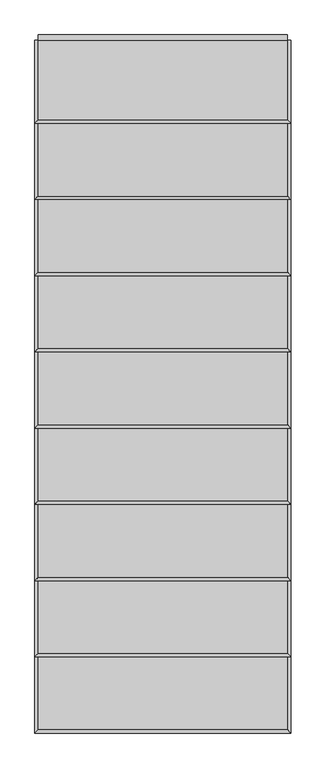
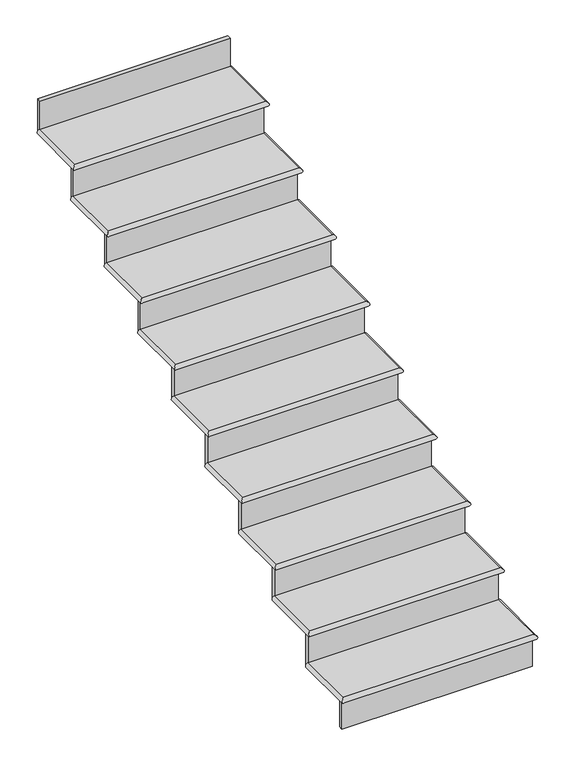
"""IFC4 building model written with IfcOpenShell, lengths in millimetres: stair flight geometry."""

from ifc_helpers import new_model, si_unit, frame, origin, place, context, project, spatial, circle_curve, ellipse_curve, faceted_brep, source, transform, mapped, element, save
from ifc_brep_helpers import plane_surface, cylinder_surface, advanced_brep


def stair_flight_46231d1e(model_context):
    return source(origin(), model_context, "Body", "SolidModel", [
        advanced_brep(
        [(7817.7853665, -3484.2167382, 143.9333333), (7817.7853665, -3484.2167382, 169.3333333), (6903.3853665, -3484.2167382, 169.3333333), (6903.3853665, -3484.2167382, 143.9333333), (7817.7853665, -3192.1167382, 169.3333333), (6903.3853665, -3192.1167382, 169.3333333), (6903.3853665, -3192.1167382, 143.9333333), (7817.7853665, -3192.1167382, 143.9333333)],
        [
            (0, 1, ellipse_curve(frame((7817.7853665, -3484.2167382, 156.6333333), z_axis=(-0.7071067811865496, -0.7071067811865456, 0.0), x_axis=(0.7071067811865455, -0.7071067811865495, 0.0)), 17.9605122, 12.7)),
            (1, 2),
            (2, 3, ellipse_curve(frame((6903.3853665, -3484.2167382, 156.6333333), z_axis=(0.7071067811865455, -0.7071067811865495, 0.0), x_axis=(0.7071067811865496, 0.7071067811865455, 0.0)), 17.9605122, 12.7)),
            (3, 0),
            (4, 5),
            (5, 2),
            (1, 4),
            (6, 7),
            (7, 0),
            (3, 6),
            (4, 7, circle_curve(frame((7817.7853665, -3192.1167382, 156.6333333), z_axis=(0.0, 1.0, 0.0), x_axis=(-1.0, 0.0, 0.0)), 12.7)),
            (6, 5, circle_curve(frame((6903.3853665, -3192.1167382, 156.6333333), z_axis=(0.0, 1.0, 0.0), x_axis=(1.0, 0.0, 0.0)), 12.7)),
        ],
        [
            cylinder_surface(frame((7817.7853665, -3484.2167382, 156.6333333), z_axis=(1.0, 0.0, 0.0), x_axis=(0.0, 1.0, 0.0)), 12.7),
            plane_surface(frame((6903.3853665, -3217.5167382, 169.3333333), z_axis=(0.0, 0.0, 1.0), x_axis=(0.0, -1.0, 0.0))),
            plane_surface(frame((6903.3853665, -3217.5167382, 143.9333333), z_axis=(0.0, 0.0, -1.0), x_axis=(0.0, 1.0, 0.0))),
            plane_surface(frame((7817.7853665, -3192.1167382, 169.3333333), z_axis=(0.0, 1.0, 0.0), x_axis=(0.0, 0.0, -1.0))),
            cylinder_surface(frame((7817.7853665, -3192.1167382, 156.6333333), z_axis=(0.0, 1.0, 0.0), x_axis=(-1.0, 0.0, 0.0)), 12.7),
            cylinder_surface(frame((6903.3853665, -3484.2167382, 156.6333333), z_axis=(0.0, -1.0, 0.0), x_axis=(1.0, 0.0, 0.0)), 12.7),
        ],
        [
            (0, [[1, 2, 3, 4]]),
            (1, [[5, 6, -2, 7]]),
            (2, [[8, 9, -4, 10]]),
            (3, [[-5, 11, -8, 12]]),
            (4, [[-11, -7, -1, -9]]),
            (5, [[-3, -6, -12, -10]]),
        ],
    ),
        faceted_brep([(7817.7853665, -3471.5167382, 143.9333333), (7817.7853665, -3471.5167382, 0.0), (7817.7853665, -3452.4667382, 0.0), (7817.7853665, -3452.4667382, 143.9333333), (6903.3853665, -3471.5167382, 143.9333333), (6903.3853665, -3452.4667382, 143.9333333), (6903.3853665, -3452.4667382, 0.0), (6903.3853665, -3471.5167382, 0.0)], [[[0, 1, 2, 3]], [[4, 5, 6, 7]], [[1, 0, 4, 7]], [[2, 1, 7, 6]], [[3, 2, 6, 5]], [[0, 3, 5, 4]]]),
        faceted_brep([(7817.7853665, -3192.1167382, 313.2666667), (7817.7853665, -3192.1167382, 143.9333333), (7817.7853665, -3173.0667382, 143.9333333), (7817.7853665, -3173.0667382, 313.2666667), (6903.3853665, -3192.1167382, 313.2666667), (6903.3853665, -3173.0667382, 313.2666667), (6903.3853665, -3173.0667382, 143.9333333), (6903.3853665, -3192.1167382, 143.9333333)], [[[0, 1, 2, 3]], [[4, 5, 6, 7]], [[1, 0, 4, 7]], [[2, 1, 7, 6]], [[3, 2, 6, 5]], [[0, 3, 5, 4]]]),
        advanced_brep(
        [(7817.7853665, -2912.7167382, 338.6666667), (6903.3853665, -2912.7167382, 338.6666667), (6903.3853665, -3204.8167382, 338.6666667), (7817.7853665, -3204.8167382, 338.6666667), (6903.3853665, -2912.7167382, 313.2666667), (7817.7853665, -2912.7167382, 313.2666667), (7817.7853665, -3204.8167382, 313.2666667), (6903.3853665, -3204.8167382, 313.2666667)],
        [
            (0, 1),
            (1, 2),
            (2, 3),
            (3, 0),
            (4, 5),
            (5, 6),
            (6, 7),
            (7, 4),
            (0, 5, circle_curve(frame((7817.7853665, -2912.7167382, 325.9666667), z_axis=(0.0, 1.0, 0.0), x_axis=(-1.0, 0.0, 0.0)), 12.7)),
            (4, 1, circle_curve(frame((6903.3853665, -2912.7167382, 325.9666667), z_axis=(0.0, 1.0, 0.0), x_axis=(1.0, 0.0, 0.0)), 12.7)),
            (6, 3, ellipse_curve(frame((7817.7853665, -3204.8167382, 325.9666667), z_axis=(-0.7071067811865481, -0.7071067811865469, 0.0), x_axis=(0.7071067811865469, -0.7071067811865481, 0.0)), 17.9605122, 12.7)),
            (2, 7, ellipse_curve(frame((6903.3853665, -3204.8167382, 325.9666667), z_axis=(0.7071067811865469, -0.7071067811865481, 0.0), x_axis=(0.7071067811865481, 0.7071067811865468, 0.0)), 17.9605122, 12.7)),
        ],
        [
            plane_surface(frame((6903.3853665, -3217.5167382, 338.6666667), z_axis=(0.0, 0.0, 1.0), x_axis=(0.0, -1.0, 0.0))),
            plane_surface(frame((6903.3853665, -3217.5167382, 313.2666667), z_axis=(0.0, 0.0, -1.0), x_axis=(0.0, 1.0, 0.0))),
            plane_surface(frame((7817.7853665, -2912.7167382, 338.6666667), z_axis=(0.0, 1.0, 0.0), x_axis=(0.0, 0.0, -1.0))),
            cylinder_surface(frame((7817.7853665, -3204.8167382, 325.9666667), z_axis=(1.0, 0.0, 0.0), x_axis=(0.0, 1.0, 0.0)), 12.7),
            cylinder_surface(frame((7817.7853665, -2912.7167382, 325.9666667), z_axis=(0.0, 1.0, 0.0), x_axis=(-1.0, 0.0, 0.0)), 12.7),
            cylinder_surface(frame((6903.3853665, -3204.8167382, 325.9666667), z_axis=(0.0, -1.0, 0.0), x_axis=(1.0, 0.0, 0.0)), 12.7),
        ],
        [
            (0, [[1, 2, 3, 4]]),
            (1, [[5, 6, 7, 8]]),
            (2, [[-1, 9, -5, 10]]),
            (3, [[11, -3, 12, -7]]),
            (4, [[-9, -4, -11, -6]]),
            (5, [[-12, -2, -10, -8]]),
        ],
    ),
        faceted_brep([(7817.7853665, -2912.7167382, 482.6), (7817.7853665, -2912.7167382, 313.2666667), (7817.7853665, -2893.6667382, 313.2666667), (7817.7853665, -2893.6667382, 482.6), (6903.3853665, -2912.7167382, 482.6), (6903.3853665, -2893.6667382, 482.6), (6903.3853665, -2893.6667382, 313.2666667), (6903.3853665, -2912.7167382, 313.2666667)], [[[0, 1, 2, 3]], [[4, 5, 6, 7]], [[1, 0, 4, 7]], [[2, 1, 7, 6]], [[3, 2, 6, 5]], [[0, 3, 5, 4]]]),
        advanced_brep(
        [(7817.7853665, -2633.3167382, 508.0), (6903.3853665, -2633.3167382, 508.0), (6903.3853665, -2925.4167382, 508.0), (7817.7853665, -2925.4167382, 508.0), (6903.3853665, -2633.3167382, 482.6), (7817.7853665, -2633.3167382, 482.6), (7817.7853665, -2925.4167382, 482.6), (6903.3853665, -2925.4167382, 482.6)],
        [
            (0, 1),
            (1, 2),
            (2, 3),
            (3, 0),
            (4, 5),
            (5, 6),
            (6, 7),
            (7, 4),
            (0, 5, circle_curve(frame((7817.7853665, -2633.3167382, 495.3), z_axis=(0.0, 1.0, 0.0), x_axis=(-1.0, 0.0, 0.0)), 12.7)),
            (4, 1, circle_curve(frame((6903.3853665, -2633.3167382, 495.3), z_axis=(0.0, 1.0, 0.0), x_axis=(1.0, 0.0, 0.0)), 12.7)),
            (6, 3, ellipse_curve(frame((7817.7853665, -2925.4167382, 495.3), z_axis=(-0.7071067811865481, -0.7071067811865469, 0.0), x_axis=(0.7071067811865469, -0.7071067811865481, 0.0)), 17.9605122, 12.7)),
            (2, 7, ellipse_curve(frame((6903.3853665, -2925.4167382, 495.3), z_axis=(0.7071067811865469, -0.7071067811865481, 0.0), x_axis=(0.7071067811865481, 0.7071067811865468, 0.0)), 17.9605122, 12.7)),
        ],
        [
            plane_surface(frame((6903.3853665, -2938.1167382, 508.0), z_axis=(0.0, 0.0, 1.0), x_axis=(0.0, -1.0, 0.0))),
            plane_surface(frame((6903.3853665, -2938.1167382, 482.6), z_axis=(0.0, 0.0, -1.0), x_axis=(0.0, 1.0, 0.0))),
            plane_surface(frame((7817.7853665, -2633.3167382, 508.0), z_axis=(0.0, 1.0, 0.0), x_axis=(0.0, 0.0, -1.0))),
            cylinder_surface(frame((7817.7853665, -2925.4167382, 495.3), z_axis=(1.0, 0.0, 0.0), x_axis=(0.0, 1.0, 0.0)), 12.7),
            cylinder_surface(frame((7817.7853665, -2633.3167382, 495.3), z_axis=(0.0, 1.0, 0.0), x_axis=(-1.0, 0.0, 0.0)), 12.7),
            cylinder_surface(frame((6903.3853665, -2925.4167382, 495.3), z_axis=(0.0, -1.0, 0.0), x_axis=(1.0, 0.0, 0.0)), 12.7),
        ],
        [
            (0, [[1, 2, 3, 4]]),
            (1, [[5, 6, 7, 8]]),
            (2, [[-1, 9, -5, 10]]),
            (3, [[11, -3, 12, -7]]),
            (4, [[-9, -4, -11, -6]]),
            (5, [[-12, -2, -10, -8]]),
        ],
    ),
        faceted_brep([(7817.7853665, -2633.3167382, 651.9333333), (7817.7853665, -2633.3167382, 482.6), (7817.7853665, -2614.2667382, 482.6), (7817.7853665, -2614.2667382, 651.9333333), (6903.3853665, -2633.3167382, 651.9333333), (6903.3853665, -2614.2667382, 651.9333333), (6903.3853665, -2614.2667382, 482.6), (6903.3853665, -2633.3167382, 482.6)], [[[0, 1, 2, 3]], [[4, 5, 6, 7]], [[1, 0, 4, 7]], [[2, 1, 7, 6]], [[3, 2, 6, 5]], [[0, 3, 5, 4]]]),
        advanced_brep(
        [(7817.7853665, -2353.9167382, 677.3333333), (6903.3853665, -2353.9167382, 677.3333333), (6903.3853665, -2646.0167382, 677.3333333), (7817.7853665, -2646.0167382, 677.3333333), (6903.3853665, -2353.9167382, 651.9333333), (7817.7853665, -2353.9167382, 651.9333333), (7817.7853665, -2646.0167382, 651.9333333), (6903.3853665, -2646.0167382, 651.9333333)],
        [
            (0, 1),
            (1, 2),
            (2, 3),
            (3, 0),
            (4, 5),
            (5, 6),
            (6, 7),
            (7, 4),
            (0, 5, circle_curve(frame((7817.7853665, -2353.9167382, 664.6333333), z_axis=(0.0, 1.0, 0.0), x_axis=(-1.0, 0.0, 0.0)), 12.7)),
            (4, 1, circle_curve(frame((6903.3853665, -2353.9167382, 664.6333333), z_axis=(0.0, 1.0, 0.0), x_axis=(1.0, 0.0, 0.0)), 12.7)),
            (6, 3, ellipse_curve(frame((7817.7853665, -2646.0167382, 664.6333333), z_axis=(-0.7071067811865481, -0.7071067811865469, 0.0), x_axis=(0.7071067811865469, -0.7071067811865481, 0.0)), 17.9605122, 12.7)),
            (2, 7, ellipse_curve(frame((6903.3853665, -2646.0167382, 664.6333333), z_axis=(0.7071067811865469, -0.7071067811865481, 0.0), x_axis=(0.7071067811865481, 0.7071067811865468, 0.0)), 17.9605122, 12.7)),
        ],
        [
            plane_surface(frame((6903.3853665, -2658.7167382, 677.3333333), z_axis=(0.0, 0.0, 1.0), x_axis=(0.0, -1.0, 0.0))),
            plane_surface(frame((6903.3853665, -2658.7167382, 651.9333333), z_axis=(0.0, 0.0, -1.0), x_axis=(0.0, 1.0, 0.0))),
            plane_surface(frame((7817.7853665, -2353.9167382, 677.3333333), z_axis=(0.0, 1.0, 0.0), x_axis=(0.0, 0.0, -1.0))),
            cylinder_surface(frame((7817.7853665, -2646.0167382, 664.6333333), z_axis=(1.0, 0.0, 0.0), x_axis=(0.0, 1.0, 0.0)), 12.7),
            cylinder_surface(frame((7817.7853665, -2353.9167382, 664.6333333), z_axis=(0.0, 1.0, 0.0), x_axis=(-1.0, 0.0, 0.0)), 12.7),
            cylinder_surface(frame((6903.3853665, -2646.0167382, 664.6333333), z_axis=(0.0, -1.0, 0.0), x_axis=(1.0, 0.0, 0.0)), 12.7),
        ],
        [
            (0, [[1, 2, 3, 4]]),
            (1, [[5, 6, 7, 8]]),
            (2, [[-1, 9, -5, 10]]),
            (3, [[11, -3, 12, -7]]),
            (4, [[-9, -4, -11, -6]]),
            (5, [[-12, -2, -10, -8]]),
        ],
    ),
        faceted_brep([(7817.7853665, -2353.9167382, 821.2666667), (7817.7853665, -2353.9167382, 651.9333333), (7817.7853665, -2334.8667382, 651.9333333), (7817.7853665, -2334.8667382, 821.2666667), (6903.3853665, -2353.9167382, 821.2666667), (6903.3853665, -2334.8667382, 821.2666667), (6903.3853665, -2334.8667382, 651.9333333), (6903.3853665, -2353.9167382, 651.9333333)], [[[0, 1, 2, 3]], [[4, 5, 6, 7]], [[1, 0, 4, 7]], [[2, 1, 7, 6]], [[3, 2, 6, 5]], [[0, 3, 5, 4]]]),
        advanced_brep(
        [(7817.7853665, -2074.5167382, 846.6666667), (6903.3853665, -2074.5167382, 846.6666667), (6903.3853665, -2366.6167382, 846.6666667), (7817.7853665, -2366.6167382, 846.6666667), (6903.3853665, -2074.5167382, 821.2666667), (7817.7853665, -2074.5167382, 821.2666667), (7817.7853665, -2366.6167382, 821.2666667), (6903.3853665, -2366.6167382, 821.2666667)],
        [
            (0, 1),
            (1, 2),
            (2, 3),
            (3, 0),
            (4, 5),
            (5, 6),
            (6, 7),
            (7, 4),
            (0, 5, circle_curve(frame((7817.7853665, -2074.5167382, 833.9666667), z_axis=(0.0, 1.0, 0.0), x_axis=(-1.0, 0.0, 0.0)), 12.7)),
            (4, 1, circle_curve(frame((6903.3853665, -2074.5167382, 833.9666667), z_axis=(0.0, 1.0, 0.0), x_axis=(1.0, 0.0, 0.0)), 12.7)),
            (6, 3, ellipse_curve(frame((7817.7853665, -2366.6167382, 833.9666667), z_axis=(-0.7071067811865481, -0.7071067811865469, 0.0), x_axis=(0.7071067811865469, -0.7071067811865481, 0.0)), 17.9605122, 12.7)),
            (2, 7, ellipse_curve(frame((6903.3853665, -2366.6167382, 833.9666667), z_axis=(0.7071067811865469, -0.7071067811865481, 0.0), x_axis=(0.7071067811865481, 0.7071067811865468, 0.0)), 17.9605122, 12.7)),
        ],
        [
            plane_surface(frame((6903.3853665, -2379.3167382, 846.6666667), z_axis=(0.0, 0.0, 1.0), x_axis=(0.0, -1.0, 0.0))),
            plane_surface(frame((6903.3853665, -2379.3167382, 821.2666667), z_axis=(0.0, 0.0, -1.0), x_axis=(0.0, 1.0, 0.0))),
            plane_surface(frame((7817.7853665, -2074.5167382, 846.6666667), z_axis=(0.0, 1.0, 0.0), x_axis=(0.0, 0.0, -1.0))),
            cylinder_surface(frame((7817.7853665, -2366.6167382, 833.9666667), z_axis=(1.0, 0.0, 0.0), x_axis=(0.0, 1.0, 0.0)), 12.7),
            cylinder_surface(frame((7817.7853665, -2074.5167382, 833.9666667), z_axis=(0.0, 1.0, 0.0), x_axis=(-1.0, 0.0, 0.0)), 12.7),
            cylinder_surface(frame((6903.3853665, -2366.6167382, 833.9666667), z_axis=(0.0, -1.0, 0.0), x_axis=(1.0, 0.0, 0.0)), 12.7),
        ],
        [
            (0, [[1, 2, 3, 4]]),
            (1, [[5, 6, 7, 8]]),
            (2, [[-1, 9, -5, 10]]),
            (3, [[11, -3, 12, -7]]),
            (4, [[-9, -4, -11, -6]]),
            (5, [[-12, -2, -10, -8]]),
        ],
    ),
        faceted_brep([(7817.7853665, -2074.5167382, 990.6), (7817.7853665, -2074.5167382, 821.2666667), (7817.7853665, -2055.4667382, 821.2666667), (7817.7853665, -2055.4667382, 990.6), (6903.3853665, -2074.5167382, 990.6), (6903.3853665, -2055.4667382, 990.6), (6903.3853665, -2055.4667382, 821.2666667), (6903.3853665, -2074.5167382, 821.2666667)], [[[0, 1, 2, 3]], [[4, 5, 6, 7]], [[1, 0, 4, 7]], [[2, 1, 7, 6]], [[3, 2, 6, 5]], [[0, 3, 5, 4]]]),
        advanced_brep(
        [(7817.7853665, -1795.1167382, 1016.0), (6903.3853665, -1795.1167382, 1016.0), (6903.3853665, -2087.2167382, 1016.0), (7817.7853665, -2087.2167382, 1016.0), (6903.3853665, -1795.1167382, 990.6), (7817.7853665, -1795.1167382, 990.6), (7817.7853665, -2087.2167382, 990.6), (6903.3853665, -2087.2167382, 990.6)],
        [
            (0, 1),
            (1, 2),
            (2, 3),
            (3, 0),
            (4, 5),
            (5, 6),
            (6, 7),
            (7, 4),
            (0, 5, circle_curve(frame((7817.7853665, -1795.1167382, 1003.3), z_axis=(0.0, 1.0, 0.0), x_axis=(-1.0, 0.0, 0.0)), 12.7)),
            (4, 1, circle_curve(frame((6903.3853665, -1795.1167382, 1003.3), z_axis=(0.0, 1.0, 0.0), x_axis=(1.0, 0.0, 0.0)), 12.7)),
            (6, 3, ellipse_curve(frame((7817.7853665, -2087.2167382, 1003.3), z_axis=(-0.7071067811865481, -0.7071067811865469, 0.0), x_axis=(0.7071067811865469, -0.7071067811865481, 0.0)), 17.9605122, 12.7)),
            (2, 7, ellipse_curve(frame((6903.3853665, -2087.2167382, 1003.3), z_axis=(0.7071067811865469, -0.7071067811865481, 0.0), x_axis=(0.7071067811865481, 0.7071067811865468, 0.0)), 17.9605122, 12.7)),
        ],
        [
            plane_surface(frame((6903.3853665, -2099.9167382, 1016.0), z_axis=(0.0, 0.0, 1.0), x_axis=(0.0, -1.0, 0.0))),
            plane_surface(frame((6903.3853665, -2099.9167382, 990.6), z_axis=(0.0, 0.0, -1.0), x_axis=(0.0, 1.0, 0.0))),
            plane_surface(frame((7817.7853665, -1795.1167382, 1016.0), z_axis=(0.0, 1.0, 0.0), x_axis=(0.0, 0.0, -1.0))),
            cylinder_surface(frame((7817.7853665, -2087.2167382, 1003.3), z_axis=(1.0, 0.0, 0.0), x_axis=(0.0, 1.0, 0.0)), 12.7),
            cylinder_surface(frame((7817.7853665, -1795.1167382, 1003.3), z_axis=(0.0, 1.0, 0.0), x_axis=(-1.0, 0.0, 0.0)), 12.7),
            cylinder_surface(frame((6903.3853665, -2087.2167382, 1003.3), z_axis=(0.0, -1.0, 0.0), x_axis=(1.0, 0.0, 0.0)), 12.7),
        ],
        [
            (0, [[1, 2, 3, 4]]),
            (1, [[5, 6, 7, 8]]),
            (2, [[-1, 9, -5, 10]]),
            (3, [[11, -3, 12, -7]]),
            (4, [[-9, -4, -11, -6]]),
            (5, [[-12, -2, -10, -8]]),
        ],
    ),
        faceted_brep([(7817.7853665, -1795.1167382, 1159.9333333), (7817.7853665, -1795.1167382, 990.6), (7817.7853665, -1776.0667382, 990.6), (7817.7853665, -1776.0667382, 1159.9333333), (6903.3853665, -1795.1167382, 1159.9333333), (6903.3853665, -1776.0667382, 1159.9333333), (6903.3853665, -1776.0667382, 990.6), (6903.3853665, -1795.1167382, 990.6)], [[[0, 1, 2, 3]], [[4, 5, 6, 7]], [[1, 0, 4, 7]], [[2, 1, 7, 6]], [[3, 2, 6, 5]], [[0, 3, 5, 4]]]),
        advanced_brep(
        [(7817.7853665, -1515.7167382, 1185.3333333), (6903.3853665, -1515.7167382, 1185.3333333), (6903.3853665, -1807.8167382, 1185.3333333), (7817.7853665, -1807.8167382, 1185.3333333), (6903.3853665, -1515.7167382, 1159.9333333), (7817.7853665, -1515.7167382, 1159.9333333), (7817.7853665, -1807.8167382, 1159.9333333), (6903.3853665, -1807.8167382, 1159.9333333)],
        [
            (0, 1),
            (1, 2),
            (2, 3),
            (3, 0),
            (4, 5),
            (5, 6),
            (6, 7),
            (7, 4),
            (0, 5, circle_curve(frame((7817.7853665, -1515.7167382, 1172.6333333), z_axis=(0.0, 1.0, 0.0), x_axis=(-1.0, 0.0, 0.0)), 12.7)),
            (4, 1, circle_curve(frame((6903.3853665, -1515.7167382, 1172.6333333), z_axis=(0.0, 1.0, 0.0), x_axis=(1.0, 0.0, 0.0)), 12.7)),
            (6, 3, ellipse_curve(frame((7817.7853665, -1807.8167382, 1172.6333333), z_axis=(-0.7071067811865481, -0.7071067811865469, 0.0), x_axis=(0.7071067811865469, -0.7071067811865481, 0.0)), 17.9605122, 12.7)),
            (2, 7, ellipse_curve(frame((6903.3853665, -1807.8167382, 1172.6333333), z_axis=(0.7071067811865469, -0.7071067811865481, 0.0), x_axis=(0.7071067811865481, 0.7071067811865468, 0.0)), 17.9605122, 12.7)),
        ],
        [
            plane_surface(frame((6903.3853665, -1820.5167382, 1185.3333333), z_axis=(0.0, 0.0, 1.0), x_axis=(0.0, -1.0, 0.0))),
            plane_surface(frame((6903.3853665, -1820.5167382, 1159.9333333), z_axis=(0.0, 0.0, -1.0), x_axis=(0.0, 1.0, 0.0))),
            plane_surface(frame((7817.7853665, -1515.7167382, 1185.3333333), z_axis=(0.0, 1.0, 0.0), x_axis=(0.0, 0.0, -1.0))),
            cylinder_surface(frame((7817.7853665, -1807.8167382, 1172.6333333), z_axis=(1.0, 0.0, 0.0), x_axis=(0.0, 1.0, 0.0)), 12.7),
            cylinder_surface(frame((7817.7853665, -1515.7167382, 1172.6333333), z_axis=(0.0, 1.0, 0.0), x_axis=(-1.0, 0.0, 0.0)), 12.7),
            cylinder_surface(frame((6903.3853665, -1807.8167382, 1172.6333333), z_axis=(0.0, -1.0, 0.0), x_axis=(1.0, 0.0, 0.0)), 12.7),
        ],
        [
            (0, [[1, 2, 3, 4]]),
            (1, [[5, 6, 7, 8]]),
            (2, [[-1, 9, -5, 10]]),
            (3, [[11, -3, 12, -7]]),
            (4, [[-9, -4, -11, -6]]),
            (5, [[-12, -2, -10, -8]]),
        ],
    ),
        faceted_brep([(7817.7853665, -1515.7167382, 1329.2666667), (7817.7853665, -1515.7167382, 1159.9333333), (7817.7853665, -1496.6667382, 1159.9333333), (7817.7853665, -1496.6667382, 1329.2666667), (6903.3853665, -1515.7167382, 1329.2666667), (6903.3853665, -1496.6667382, 1329.2666667), (6903.3853665, -1496.6667382, 1159.9333333), (6903.3853665, -1515.7167382, 1159.9333333)], [[[0, 1, 2, 3]], [[4, 5, 6, 7]], [[1, 0, 4, 7]], [[2, 1, 7, 6]], [[3, 2, 6, 5]], [[0, 3, 5, 4]]]),
        advanced_brep(
        [(7817.7853665, -1236.3167382, 1354.6666667), (6903.3853665, -1236.3167382, 1354.6666667), (6903.3853665, -1528.4167382, 1354.6666667), (7817.7853665, -1528.4167382, 1354.6666667), (6903.3853665, -1236.3167382, 1329.2666667), (7817.7853665, -1236.3167382, 1329.2666667), (7817.7853665, -1528.4167382, 1329.2666667), (6903.3853665, -1528.4167382, 1329.2666667)],
        [
            (0, 1),
            (1, 2),
            (2, 3),
            (3, 0),
            (4, 5),
            (5, 6),
            (6, 7),
            (7, 4),
            (0, 5, circle_curve(frame((7817.7853665, -1236.3167382, 1341.9666667), z_axis=(0.0, 1.0, 0.0), x_axis=(-1.0, 0.0, 0.0)), 12.7)),
            (4, 1, circle_curve(frame((6903.3853665, -1236.3167382, 1341.9666667), z_axis=(0.0, 1.0, 0.0), x_axis=(1.0, 0.0, 0.0)), 12.7)),
            (6, 3, ellipse_curve(frame((7817.7853665, -1528.4167382, 1341.9666667), z_axis=(-0.7071067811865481, -0.7071067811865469, 0.0), x_axis=(0.7071067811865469, -0.7071067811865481, 0.0)), 17.9605122, 12.7)),
            (2, 7, ellipse_curve(frame((6903.3853665, -1528.4167382, 1341.9666667), z_axis=(0.7071067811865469, -0.7071067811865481, 0.0), x_axis=(0.7071067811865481, 0.7071067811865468, 0.0)), 17.9605122, 12.7)),
        ],
        [
            plane_surface(frame((6903.3853665, -1541.1167382, 1354.6666667), z_axis=(0.0, 0.0, 1.0), x_axis=(0.0, -1.0, 0.0))),
            plane_surface(frame((6903.3853665, -1541.1167382, 1329.2666667), z_axis=(0.0, 0.0, -1.0), x_axis=(0.0, 1.0, 0.0))),
            plane_surface(frame((7817.7853665, -1236.3167382, 1354.6666667), z_axis=(0.0, 1.0, 0.0), x_axis=(0.0, 0.0, -1.0))),
            cylinder_surface(frame((7817.7853665, -1528.4167382, 1341.9666667), z_axis=(1.0, 0.0, 0.0), x_axis=(0.0, 1.0, 0.0)), 12.7),
            cylinder_surface(frame((7817.7853665, -1236.3167382, 1341.9666667), z_axis=(0.0, 1.0, 0.0), x_axis=(-1.0, 0.0, 0.0)), 12.7),
            cylinder_surface(frame((6903.3853665, -1528.4167382, 1341.9666667), z_axis=(0.0, -1.0, 0.0), x_axis=(1.0, 0.0, 0.0)), 12.7),
        ],
        [
            (0, [[1, 2, 3, 4]]),
            (1, [[5, 6, 7, 8]]),
            (2, [[-1, 9, -5, 10]]),
            (3, [[11, -3, 12, -7]]),
            (4, [[-9, -4, -11, -6]]),
            (5, [[-12, -2, -10, -8]]),
        ],
    ),
        faceted_brep([(7817.7853665, -956.9167382, 1667.9333333), (7817.7853665, -956.9167382, 1498.6), (7817.7853665, -937.8667382, 1498.6), (7817.7853665, -937.8667382, 1667.9333333), (6903.3853665, -956.9167382, 1667.9333333), (6903.3853665, -937.8667382, 1667.9333333), (6903.3853665, -937.8667382, 1498.6), (6903.3853665, -956.9167382, 1498.6)], [[[0, 1, 2, 3]], [[4, 5, 6, 7]], [[1, 0, 4, 7]], [[2, 1, 7, 6]], [[3, 2, 6, 5]], [[0, 3, 5, 4]]]),
        faceted_brep([(7817.7853665, -1236.3167382, 1498.6), (7817.7853665, -1236.3167382, 1329.2666667), (7817.7853665, -1217.2667382, 1329.2666667), (7817.7853665, -1217.2667382, 1498.6), (6903.3853665, -1236.3167382, 1498.6), (6903.3853665, -1217.2667382, 1498.6), (6903.3853665, -1217.2667382, 1329.2666667), (6903.3853665, -1236.3167382, 1329.2666667)], [[[0, 1, 2, 3]], [[4, 5, 6, 7]], [[1, 0, 4, 7]], [[2, 1, 7, 6]], [[3, 2, 6, 5]], [[0, 3, 5, 4]]]),
        advanced_brep(
        [(7817.7853665, -956.9167382, 1524.0), (6903.3853665, -956.9167382, 1524.0), (6903.3853665, -982.3167382, 1524.0), (6903.3853665, -1249.0167382, 1524.0), (7817.7853665, -1249.0167382, 1524.0), (7817.7853665, -982.3167382, 1524.0), (6903.3853665, -956.9167382, 1498.6), (7817.7853665, -956.9167382, 1498.6), (7817.7853665, -982.3167382, 1498.6), (7817.7853665, -1249.0167382, 1498.6), (6903.3853665, -1249.0167382, 1498.6), (6903.3853665, -982.3167382, 1498.6)],
        [
            (0, 1),
            (1, 2),
            (2, 3),
            (3, 4),
            (4, 5),
            (5, 0),
            (6, 7),
            (7, 8),
            (8, 9),
            (9, 10),
            (10, 11),
            (11, 6),
            (0, 7, circle_curve(frame((7817.7853665, -956.9167382, 1511.3), z_axis=(0.0, 1.0, 0.0), x_axis=(-1.0, 0.0, 0.0)), 12.7)),
            (6, 1, circle_curve(frame((6903.3853665, -956.9167382, 1511.3), z_axis=(0.0, 1.0, 0.0), x_axis=(1.0, 0.0, 0.0)), 12.7)),
            (9, 4, ellipse_curve(frame((7817.7853665, -1249.0167382, 1511.3), z_axis=(-0.7071067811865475, -0.7071067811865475, 0.0), x_axis=(0.7071067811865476, -0.7071067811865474, 0.0)), 17.9605122, 12.7)),
            (3, 10, ellipse_curve(frame((6903.3853665, -1249.0167382, 1511.3), z_axis=(0.7071067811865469, -0.7071067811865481, 0.0), x_axis=(0.7071067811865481, 0.7071067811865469, 0.0)), 17.9605122, 12.7)),
        ],
        [
            plane_surface(frame((6903.3853665, -982.3167382, 1524.0), z_axis=(0.0, 0.0, 1.0), x_axis=(0.0, -1.0, 0.0))),
            plane_surface(frame((6903.3853665, -982.3167382, 1498.6), z_axis=(0.0, 0.0, -1.0), x_axis=(0.0, 1.0, 0.0))),
            plane_surface(frame((7817.7853665, -956.9167382, 1524.0), z_axis=(0.0, 1.0, 0.0), x_axis=(0.0, 0.0, -1.0))),
            cylinder_surface(frame((7817.7853665, -1249.0167382, 1511.3), z_axis=(1.0, 0.0, 0.0), x_axis=(0.0, 1.0, 0.0)), 12.7),
            cylinder_surface(frame((7817.7853665, -956.9167382, 1511.3), z_axis=(0.0, 1.0, 0.0), x_axis=(-1.0, 0.0, 0.0)), 12.7),
            cylinder_surface(frame((6903.3853665, -1249.0167382, 1511.3), z_axis=(0.0, -1.0, 0.0), x_axis=(1.0, 0.0, 0.0)), 12.7),
        ],
        [
            (0, [[1, 2, 3, 4, 5, 6]]),
            (1, [[7, 8, 9, 10, 11, 12]]),
            (2, [[-1, 13, -7, 14]]),
            (3, [[15, -4, 16, -10]]),
            (4, [[-13, -6, -5, -15, -9, -8]]),
            (5, [[-16, -3, -2, -14, -12, -11]]),
        ],
    ),
    ])


if __name__ == "__main__":
    model = new_model("IFC4")
    model_context = context("Model", 3, world=origin())
    ifc_project = project(units=[si_unit("LENGTHUNIT", "METRE", prefix="MILLI")], contexts=[model_context])
    site = spatial("IfcSite", under=ifc_project)
    building = spatial("IfcBuilding", under=site)
    placement = place(None, origin())
    stair_flight_shape = stair_flight_46231d1e(model_context)
    element("IfcStairFlight", 1, ObjectType="Unassigned Steps with 1\" Tread 1\" Nosing 3/4\" Riser (1)", at=placement, inside=building, context=model_context, shape_type="MappedRepresentation", body=[
        mapped(stair_flight_shape, transform((0.0, 0.0, 0.0), x_axis=(1.0, 0.0, 0.0), y_axis=(0.0, 1.0, 0.0), z_axis=(0.0, 0.0, 1.0))),
    ])
    save(model, "model.ifc")
